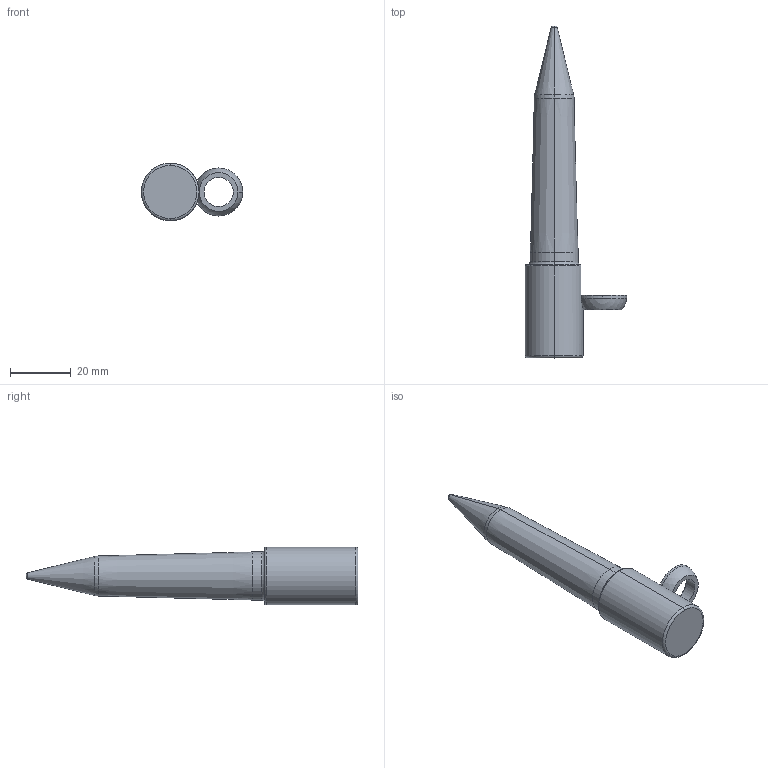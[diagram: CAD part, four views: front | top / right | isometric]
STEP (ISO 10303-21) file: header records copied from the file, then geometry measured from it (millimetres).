
FILE_DESCRIPTION (( 'STEP AP214' ), '1' );
FILE_NAME ('PA-T-.625-.125-2.0-3-A-F1.STEP', '2019-05-08T17:39:46', ( '' ), ( '' ), 'SwSTEP 2.0', 'SolidWorks 2017', '' );
FILE_SCHEMA (( 'AUTOMOTIVE_DESIGN' ));
Length unit declared in the file: inch
Products named in the file (3): SLPilot-PA-T-E_PA-T-.625-.125-2.0-3-A-F1; SLRadiusWasher_RadiusWasher-E; PA-T-.625-.125-2.0-3-A-F1
Assembly tree (2 placements, depth 2):
  PA-T-.625-.125-2.0-3-A-F1
    SLPilot-PA-T-E_PA-T-.625-.125-2.0-3-A-F1
    SLRadiusWasher_RadiusWasher-E
Bounding box: 33.46 x 109.55 x 19.05 mm (x, y, z)
Volume: 19746.6 mm3; surface area: 5828.4 mm2
Topology: 2 solids, 2 shells, 35 faces, 77 edges, 46 vertices
Faces by surface type: torus 11, cylinder 9, cone 6, plane 5, sphere 4
Entity records: 1168 total; most frequent: CARTESIAN_POINT 234, DIRECTION 208, ORIENTED_EDGE 154, AXIS2_PLACEMENT_3D 96, EDGE_CURVE 77, CIRCLE 56, VERTEX_POINT 46, EDGE_LOOP 37
